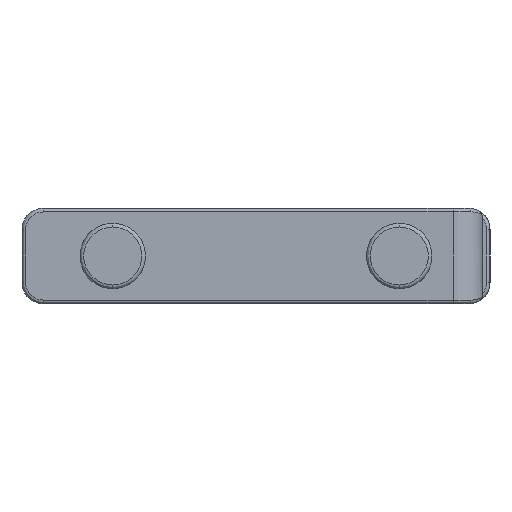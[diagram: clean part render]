
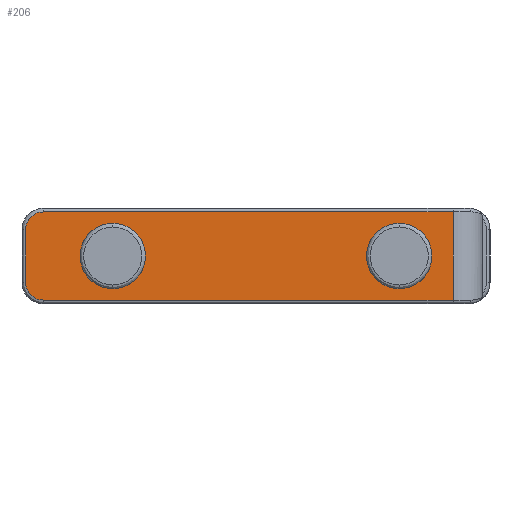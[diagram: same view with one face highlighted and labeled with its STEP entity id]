
A CAD part, left-side view. The second image highlights one B-rep face of the part: STEP entity #206.
In plain terms, the highlighted planar face has unit normal (-1, 0, 0).
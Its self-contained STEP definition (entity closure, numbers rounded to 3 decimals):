
#206 = ADVANCED_FACE ( 'NONE', ( #2969, #2968, #2967 ), #2964, .F. ) ;
#279 = EDGE_LOOP ( 'NONE', ( #456, #2172 ) ) ;
#406 = VERTEX_POINT ( 'NONE', #811 ) ;
#409 = EDGE_CURVE ( 'NONE', #2437, #406, #810, .T. ) ;
#456 = ORIENTED_EDGE ( 'NONE', *, *, #2174, .F. ) ;
#806 = DIRECTION ( 'NONE',  ( 0., 0., -1. ) ) ;
#807 = DIRECTION ( 'NONE',  ( -1., 0., 0. ) ) ;
#808 = CARTESIAN_POINT ( 'NONE',  ( -408.2, 19.5, 0. ) ) ;
#809 = AXIS2_PLACEMENT_3D ( 'NONE', #808, #807, #806 ) ;
#810 = CIRCLE ( 'NONE', #809, 4.45 ) ;
#811 = CARTESIAN_POINT ( 'NONE',  ( -408.2, 19.5, -4.45 ) ) ;
#1146 = DIRECTION ( 'NONE',  ( 0., 0., -1. ) ) ;
#1147 = DIRECTION ( 'NONE',  ( -1., 0., 0. ) ) ;
#1148 = CARTESIAN_POINT ( 'NONE',  ( -408.2, 19.5, 0. ) ) ;
#1149 = AXIS2_PLACEMENT_3D ( 'NONE', #1148, #1147, #1146 ) ;
#1150 = CIRCLE ( 'NONE', #1149, 4.45 ) ;
#1155 = CARTESIAN_POINT ( 'NONE',  ( -408.2, -26.82, 6. ) ) ;
#1235 = DIRECTION ( 'NONE',  ( 0., 0., -1. ) ) ;
#1236 = VECTOR ( 'NONE', #1235, 1000. ) ;
#1237 = CARTESIAN_POINT ( 'NONE',  ( -408.2, 31.35, -3.6 ) ) ;
#1238 = LINE ( 'NONE', #1237, #1236 ) ;
#1239 = DIRECTION ( 'NONE',  ( 0., 0., -1. ) ) ;
#1240 = DIRECTION ( 'NONE',  ( -1., 0., 0. ) ) ;
#1241 = CARTESIAN_POINT ( 'NONE',  ( -408.2, 28.95, 3.6 ) ) ;
#1242 = AXIS2_PLACEMENT_3D ( 'NONE', #1241, #1240, #1239 ) ;
#1243 = CIRCLE ( 'NONE', #1242, 2.4 ) ;
#1244 = CARTESIAN_POINT ( 'NONE',  ( -408.2, 31.35, -3.6 ) ) ;
#1282 = DIRECTION ( 'NONE',  ( 0., 0., -1. ) ) ;
#1283 = VECTOR ( 'NONE', #1282, 1000. ) ;
#1284 = CARTESIAN_POINT ( 'NONE',  ( -408.2, -26.82, -7.5 ) ) ;
#1285 = LINE ( 'NONE', #1284, #1283 ) ;
#1290 = CARTESIAN_POINT ( 'NONE',  ( -408.2, -26.82, -6. ) ) ;
#1291 = CARTESIAN_POINT ( 'NONE',  ( -408.2, 31.35, 3.6 ) ) ;
#1292 = DIRECTION ( 'NONE',  ( 0., 1., 0. ) ) ;
#1293 = VECTOR ( 'NONE', #1292, 1000. ) ;
#1294 = CARTESIAN_POINT ( 'NONE',  ( -408.2, 28.95, 6. ) ) ;
#1295 = LINE ( 'NONE', #1294, #1293 ) ;
#1296 = CARTESIAN_POINT ( 'NONE',  ( -408.2, 28.95, 6. ) ) ;
#1413 = DIRECTION ( 'NONE',  ( 0., -1., 0. ) ) ;
#1414 = VECTOR ( 'NONE', #1413, 1000. ) ;
#1415 = CARTESIAN_POINT ( 'NONE',  ( -408.2, -26.82, -6. ) ) ;
#1416 = LINE ( 'NONE', #1415, #1414 ) ;
#1463 = DIRECTION ( 'NONE',  ( 0., 0., -1. ) ) ;
#1464 = DIRECTION ( 'NONE',  ( -1., 0., 0. ) ) ;
#1465 = CARTESIAN_POINT ( 'NONE',  ( -408.2, -19.5, 0. ) ) ;
#1466 = AXIS2_PLACEMENT_3D ( 'NONE', #1465, #1464, #1463 ) ;
#1467 = CIRCLE ( 'NONE', #1466, 4.45 ) ;
#1468 = DIRECTION ( 'NONE',  ( 0., 0., -1. ) ) ;
#1469 = DIRECTION ( 'NONE',  ( -1., 0., 0. ) ) ;
#1470 = CARTESIAN_POINT ( 'NONE',  ( -408.2, 28.95, -3.6 ) ) ;
#1471 = AXIS2_PLACEMENT_3D ( 'NONE', #1470, #1469, #1468 ) ;
#1472 = CIRCLE ( 'NONE', #1471, 2.4 ) ;
#1473 = CARTESIAN_POINT ( 'NONE',  ( -408.2, 28.95, -6. ) ) ;
#1619 = CARTESIAN_POINT ( 'NONE',  ( -408.2, 19.5, 4.45 ) ) ;
#1631 = DIRECTION ( 'NONE',  ( 0., 0., -1. ) ) ;
#1632 = DIRECTION ( 'NONE',  ( -1., 0., 0. ) ) ;
#1633 = CARTESIAN_POINT ( 'NONE',  ( -408.2, -19.5, 0. ) ) ;
#1634 = AXIS2_PLACEMENT_3D ( 'NONE', #1633, #1632, #1631 ) ;
#1635 = CIRCLE ( 'NONE', #1634, 4.45 ) ;
#1686 = CARTESIAN_POINT ( 'NONE',  ( -408.2, -19.5, -4.45 ) ) ;
#1718 = CARTESIAN_POINT ( 'NONE',  ( -408.2, -19.5, 4.45 ) ) ;
#2167 = EDGE_LOOP ( 'NONE', ( #2256, #2254, #2266, #2259, #2268, #2350 ) ) ;
#2172 = ORIENTED_EDGE ( 'NONE', *, *, #409, .F. ) ;
#2173 = VERTEX_POINT ( 'NONE', #1155 ) ;
#2174 = EDGE_CURVE ( 'NONE', #406, #2437, #1150, .T. ) ;
#2252 = VERTEX_POINT ( 'NONE', #1244 ) ;
#2253 = EDGE_CURVE ( 'NONE', #2258, #2261, #1243, .T. ) ;
#2254 = ORIENTED_EDGE ( 'NONE', *, *, #2260, .T. ) ;
#2256 = ORIENTED_EDGE ( 'NONE', *, *, #2267, .F. ) ;
#2257 = EDGE_CURVE ( 'NONE', #2261, #2252, #1238, .T. ) ;
#2258 = VERTEX_POINT ( 'NONE', #1296 ) ;
#2259 = ORIENTED_EDGE ( 'NONE', *, *, #2257, .T. ) ;
#2260 = EDGE_CURVE ( 'NONE', #2173, #2258, #1295, .T. ) ;
#2261 = VERTEX_POINT ( 'NONE', #1291 ) ;
#2262 = VERTEX_POINT ( 'NONE', #1290 ) ;
#2266 = ORIENTED_EDGE ( 'NONE', *, *, #2253, .T. ) ;
#2267 = EDGE_CURVE ( 'NONE', #2173, #2262, #1285, .T. ) ;
#2268 = ORIENTED_EDGE ( 'NONE', *, *, #2349, .T. ) ;
#2322 = ORIENTED_EDGE ( 'NONE', *, *, #2468, .F. ) ;
#2346 = EDGE_LOOP ( 'NONE', ( #2351, #2322 ) ) ;
#2347 = EDGE_CURVE ( 'NONE', #2348, #2262, #1416, .T. ) ;
#2348 = VERTEX_POINT ( 'NONE', #1473 ) ;
#2349 = EDGE_CURVE ( 'NONE', #2252, #2348, #1472, .T. ) ;
#2350 = ORIENTED_EDGE ( 'NONE', *, *, #2347, .T. ) ;
#2351 = ORIENTED_EDGE ( 'NONE', *, *, #2352, .F. ) ;
#2352 = EDGE_CURVE ( 'NONE', #2474, #2477, #1467, .T. ) ;
#2437 = VERTEX_POINT ( 'NONE', #1619 ) ;
#2468 = EDGE_CURVE ( 'NONE', #2477, #2474, #1635, .T. ) ;
#2474 = VERTEX_POINT ( 'NONE', #1686 ) ;
#2477 = VERTEX_POINT ( 'NONE', #1718 ) ;
#2964 = PLANE ( 'NONE',  #2966 ) ;
#2965 = CARTESIAN_POINT ( 'NONE',  ( -408.2, -27.9, -2.9 ) ) ;
#2966 = AXIS2_PLACEMENT_3D ( 'NONE', #2965, #3079, #3078 ) ;
#2967 = FACE_BOUND ( 'NONE', #2346, .T. ) ;
#2968 = FACE_OUTER_BOUND ( 'NONE', #2167, .T. ) ;
#2969 = FACE_BOUND ( 'NONE', #279, .T. ) ;
#3078 = DIRECTION ( 'NONE',  ( 0., 0., -1. ) ) ;
#3079 = DIRECTION ( 'NONE',  ( 1., 0., 0. ) ) ;
